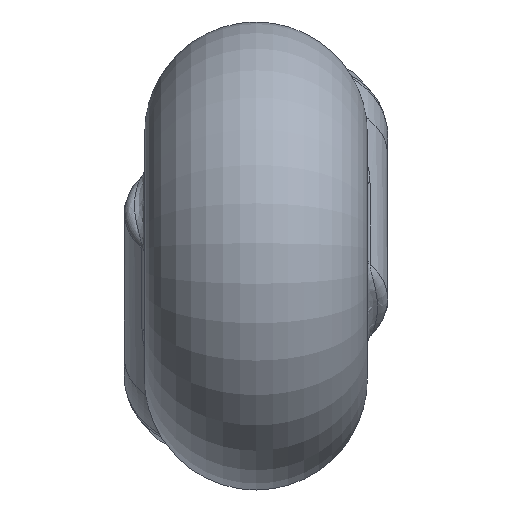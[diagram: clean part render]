
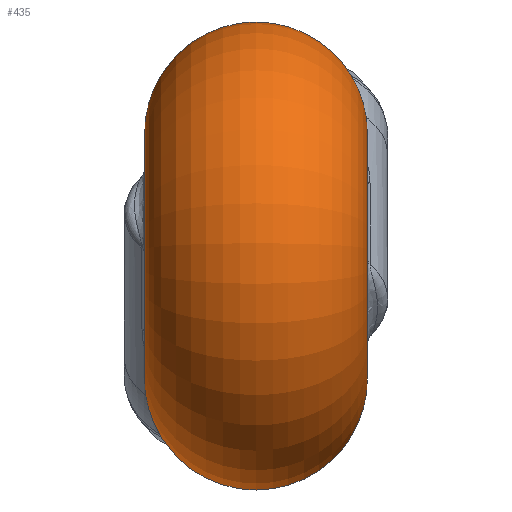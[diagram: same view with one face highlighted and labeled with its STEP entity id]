
A CAD part, left-side view. The second image highlights one B-rep face of the part: STEP entity #435.
In plain terms, the highlighted toroidal (fillet/blend) face has major radius 2.1 mm and minor radius 1.9 mm.
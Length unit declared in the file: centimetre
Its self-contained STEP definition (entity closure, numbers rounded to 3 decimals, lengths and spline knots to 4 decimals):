
#15=TOROIDAL_SURFACE('',#475,0.21,0.19);
#33=B_SPLINE_CURVE_WITH_KNOTS('',3,(#653,#654,#655,#656,#657,#658,#659,
#660,#661),.UNSPECIFIED.,.F.,.F.,(4,1,1,1,1,1,4),(-0.4821,-0.3788,
-0.3444,-0.2755,-0.2066,-0.1378,
0.),.UNSPECIFIED.);
#35=B_SPLINE_CURVE_WITH_KNOTS('',3,(#709,#710,#711,#712,#713,#714,#715),
 .UNSPECIFIED.,.F.,.F.,(4,1,1,1,4),(-0.3955,-0.2825,
-0.1695,-0.113,0.),.UNSPECIFIED.);
#37=B_SPLINE_CURVE_WITH_KNOTS('',3,(#751,#752,#753,#754,#755),
 .UNSPECIFIED.,.F.,.F.,(4,1,4),(-0.1806,-0.0903,
0.),.UNSPECIFIED.);
#42=B_SPLINE_CURVE_WITH_KNOTS('',3,(#869,#870,#871,#872),.UNSPECIFIED.,
 .F.,.F.,(4,4),(0.,0.0177),.UNSPECIFIED.);
#44=B_SPLINE_CURVE_WITH_KNOTS('',3,(#896,#897,#898,#899,#900),
 .UNSPECIFIED.,.F.,.F.,(4,1,4),(-0.1806,-0.0903,
0.),.UNSPECIFIED.);
#45=B_SPLINE_CURVE_WITH_KNOTS('',3,(#902,#903,#904,#905,#906,#907,#908,
#909,#910),.UNSPECIFIED.,.F.,.F.,(4,1,1,1,1,1,4),(-0.3955,-0.339,
-0.2825,-0.226,-0.1695,-0.0565,
0.),.UNSPECIFIED.);
#46=B_SPLINE_CURVE_WITH_KNOTS('',3,(#912,#913,#914,#915,#916,#917,#918,
#919,#920),.UNSPECIFIED.,.F.,.F.,(4,1,1,1,1,1,4),(-0.4821,-0.4133,
-0.3444,-0.2755,-0.2066,-0.0689,
0.),.UNSPECIFIED.);
#47=B_SPLINE_CURVE_WITH_KNOTS('',3,(#922,#923,#924,#925),.UNSPECIFIED.,
 .F.,.F.,(4,4),(-0.0177,0.),.UNSPECIFIED.);
#78=FACE_BOUND('',#127,.T.);
#92=FACE_OUTER_BOUND('',#126,.T.);
#126=EDGE_LOOP('',(#307,#308,#309,#310,#311));
#127=EDGE_LOOP('',(#312,#313,#314,#315,#316));
#163=CIRCLE('',#476,0.21);
#164=CIRCLE('',#477,0.21);
#182=VERTEX_POINT('',#650);
#183=VERTEX_POINT('',#652);
#185=VERTEX_POINT('',#708);
#187=VERTEX_POINT('',#750);
#191=VERTEX_POINT('',#821);
#194=VERTEX_POINT('',#894);
#195=VERTEX_POINT('',#895);
#196=VERTEX_POINT('',#901);
#197=VERTEX_POINT('',#911);
#198=VERTEX_POINT('',#921);
#218=EDGE_CURVE('',#182,#183,#33,.T.);
#221=EDGE_CURVE('',#183,#185,#35,.T.);
#224=EDGE_CURVE('',#185,#187,#37,.T.);
#234=EDGE_CURVE('',#191,#182,#42,.T.);
#238=EDGE_CURVE('',#191,#187,#163,.T.);
#239=EDGE_CURVE('',#194,#195,#44,.T.);
#240=EDGE_CURVE('',#196,#194,#45,.T.);
#241=EDGE_CURVE('',#197,#196,#46,.T.);
#242=EDGE_CURVE('',#198,#197,#47,.T.);
#243=EDGE_CURVE('',#198,#195,#164,.T.);
#307=ORIENTED_EDGE('',*,*,#224,.F.);
#308=ORIENTED_EDGE('',*,*,#221,.F.);
#309=ORIENTED_EDGE('',*,*,#218,.F.);
#310=ORIENTED_EDGE('',*,*,#234,.F.);
#311=ORIENTED_EDGE('',*,*,#238,.T.);
#312=ORIENTED_EDGE('',*,*,#239,.F.);
#313=ORIENTED_EDGE('',*,*,#240,.F.);
#314=ORIENTED_EDGE('',*,*,#241,.F.);
#315=ORIENTED_EDGE('',*,*,#242,.F.);
#316=ORIENTED_EDGE('',*,*,#243,.T.);
#435=ADVANCED_FACE('',(#92,#78),#15,.T.);
#475=AXIS2_PLACEMENT_3D('',#892,#539,#540);
#476=AXIS2_PLACEMENT_3D('',#893,#541,#542);
#477=AXIS2_PLACEMENT_3D('',#926,#543,#544);
#539=DIRECTION('center_axis',(0.,1.,0.));
#540=DIRECTION('ref_axis',(1.,0.,0.));
#541=DIRECTION('center_axis',(0.,1.,0.));
#542=DIRECTION('ref_axis',(-1.,0.,0.));
#543=DIRECTION('center_axis',(0.,-1.,0.));
#544=DIRECTION('ref_axis',(-1.,0.,0.));
#650=CARTESIAN_POINT('',(0.1637,-0.1249,-0.1406));
#652=CARTESIAN_POINT('',(0.3842,0.0892,0.1055));
#653=CARTESIAN_POINT('Ctrl Pts',(0.1637,-0.1249,-0.1406));
#654=CARTESIAN_POINT('Ctrl Pts',(0.1878,-0.1248,-0.1162));
#655=CARTESIAN_POINT('Ctrl Pts',(0.219,-0.1252,-0.0828));
#656=CARTESIAN_POINT('Ctrl Pts',(0.2704,-0.1155,-0.0432));
#657=CARTESIAN_POINT('Ctrl Pts',(0.3153,-0.0965,
-0.0211));
#658=CARTESIAN_POINT('Ctrl Pts',(0.3603,-0.0563,
-0.0017));
#659=CARTESIAN_POINT('Ctrl Pts',(0.3993,0.0122,0.0302));
#660=CARTESIAN_POINT('Ctrl Pts',(0.3967,0.0665,0.071));
#661=CARTESIAN_POINT('Ctrl Pts',(0.3842,0.0892,0.1055));
#708=CARTESIAN_POINT('',(0.2311,-0.0639,0.2623));
#709=CARTESIAN_POINT('Ctrl Pts',(0.3842,0.0892,0.1055));
#710=CARTESIAN_POINT('Ctrl Pts',(0.374,0.1078,0.1337));
#711=CARTESIAN_POINT('Ctrl Pts',(0.3407,0.1273,0.1996));
#712=CARTESIAN_POINT('Ctrl Pts',(0.2972,0.0847,0.273));
#713=CARTESIAN_POINT('Ctrl Pts',(0.259,0.0096,
0.3011));
#714=CARTESIAN_POINT('Ctrl Pts',(0.2407,-0.0394,
0.284));
#715=CARTESIAN_POINT('Ctrl Pts',(0.2311,-0.0639,
0.2623));
#750=CARTESIAN_POINT('',(0.1639,-0.125,0.1313));
#751=CARTESIAN_POINT('Ctrl Pts',(0.2311,-0.0639,
0.2623));
#752=CARTESIAN_POINT('Ctrl Pts',(0.2234,-0.0835,
0.2449));
#753=CARTESIAN_POINT('Ctrl Pts',(0.2088,-0.1136,0.2001));
#754=CARTESIAN_POINT('Ctrl Pts',(0.1829,-0.125,0.1508));
#755=CARTESIAN_POINT('Ctrl Pts',(0.1639,-0.125,0.1313));
#821=CARTESIAN_POINT('',(0.1484,-0.125,-0.1486));
#869=CARTESIAN_POINT('Ctrl Pts',(0.1484,-0.125,-0.1486));
#870=CARTESIAN_POINT('Ctrl Pts',(0.154,-0.125,-0.1474));
#871=CARTESIAN_POINT('Ctrl Pts',(0.1595,-0.1249,-0.1448));
#872=CARTESIAN_POINT('Ctrl Pts',(0.1637,-0.1249,-0.1406));
#892=CARTESIAN_POINT('Origin',(0.,0.065,0.));
#893=CARTESIAN_POINT('Origin',(0.,-0.125,0.));
#894=CARTESIAN_POINT('',(0.2311,0.1939,-0.2623));
#895=CARTESIAN_POINT('',(0.1639,0.255,-0.1313));
#896=CARTESIAN_POINT('Ctrl Pts',(0.2311,0.1939,-0.2623));
#897=CARTESIAN_POINT('Ctrl Pts',(0.2234,0.2135,-0.2449));
#898=CARTESIAN_POINT('Ctrl Pts',(0.2088,0.2436,-0.2001));
#899=CARTESIAN_POINT('Ctrl Pts',(0.1829,0.255,-0.1508));
#900=CARTESIAN_POINT('Ctrl Pts',(0.1639,0.255,-0.1313));
#901=CARTESIAN_POINT('',(0.3842,0.0408,-0.1055));
#902=CARTESIAN_POINT('Ctrl Pts',(0.3842,0.0408,-0.1055));
#903=CARTESIAN_POINT('Ctrl Pts',(0.3791,0.0315,-0.1196));
#904=CARTESIAN_POINT('Ctrl Pts',(0.3656,0.0169,-0.1497));
#905=CARTESIAN_POINT('Ctrl Pts',(0.3404,0.0129,-0.1983));
#906=CARTESIAN_POINT('Ctrl Pts',(0.3145,0.028,-0.2436));
#907=CARTESIAN_POINT('Ctrl Pts',(0.2812,0.0713,-0.2907));
#908=CARTESIAN_POINT('Ctrl Pts',(0.252,0.1392,-0.2993));
#909=CARTESIAN_POINT('Ctrl Pts',(0.2359,0.1817,-0.2731));
#910=CARTESIAN_POINT('Ctrl Pts',(0.2311,0.1939,-0.2623));
#911=CARTESIAN_POINT('',(0.1637,0.2549,0.1406));
#912=CARTESIAN_POINT('Ctrl Pts',(0.1637,0.2549,0.1406));
#913=CARTESIAN_POINT('Ctrl Pts',(0.1798,0.2549,0.1243));
#914=CARTESIAN_POINT('Ctrl Pts',(0.2112,0.2547,0.0915));
#915=CARTESIAN_POINT('Ctrl Pts',(0.2614,0.2492,0.0478));
#916=CARTESIAN_POINT('Ctrl Pts',(0.3153,0.2265,0.021));
#917=CARTESIAN_POINT('Ctrl Pts',(0.3757,0.173,-0.0043));
#918=CARTESIAN_POINT('Ctrl Pts',(0.4024,0.0965,-0.041));
#919=CARTESIAN_POINT('Ctrl Pts',(0.3905,0.0521,-0.0883));
#920=CARTESIAN_POINT('Ctrl Pts',(0.3842,0.0408,-0.1055));
#921=CARTESIAN_POINT('',(0.1484,0.255,0.1486));
#922=CARTESIAN_POINT('Ctrl Pts',(0.1484,0.255,0.1486));
#923=CARTESIAN_POINT('Ctrl Pts',(0.154,0.255,0.1474));
#924=CARTESIAN_POINT('Ctrl Pts',(0.1595,0.2549,0.1448));
#925=CARTESIAN_POINT('Ctrl Pts',(0.1637,0.2549,0.1406));
#926=CARTESIAN_POINT('Origin',(0.,0.255,0.));
